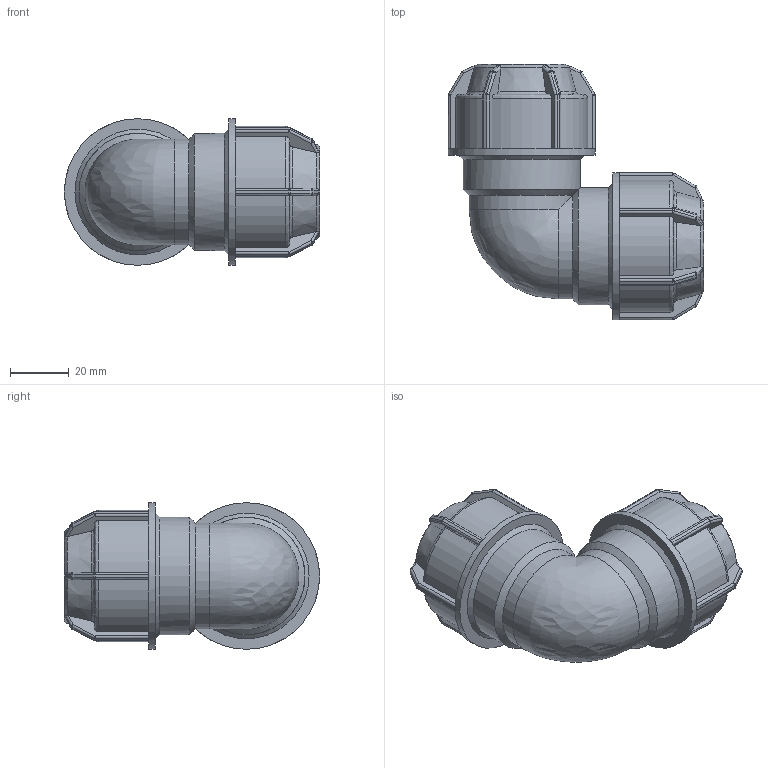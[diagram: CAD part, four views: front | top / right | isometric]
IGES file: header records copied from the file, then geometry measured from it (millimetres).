
Global section: file name: 140500025.ipt; native system: Autodesk Inventor 2015; preprocessor: unknown; author: KIM; date: 20180409.131040; units: millimetre
Bounding box: 87 x 87 x 50 mm (x, y, z)
Volume: 97676 mm3; surface area: 29764.5 mm2
Topology: 1 solids, 1 shells, 407 faces, 994 edges, 576 vertices
Faces by surface type: plane 193, cylinder 114, sphere 48, revolution 35, cone 16, bspline 1
Full cylindrical faces by diameter (mm): 40 x2, 50 x2
